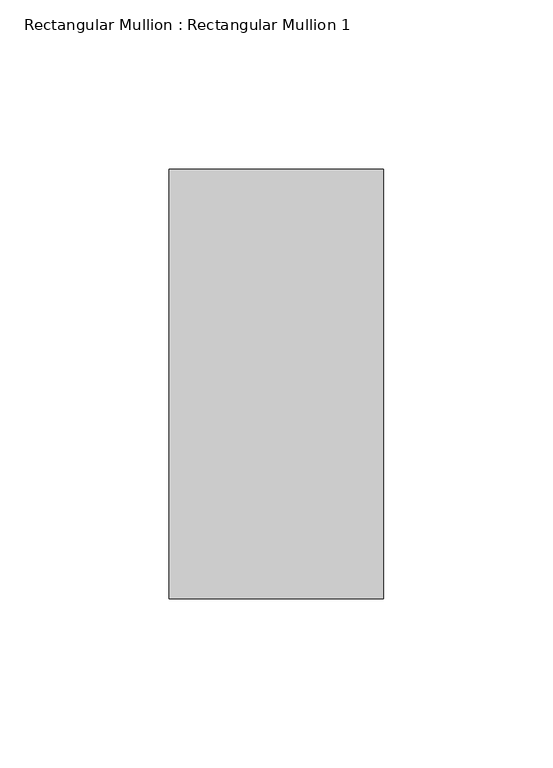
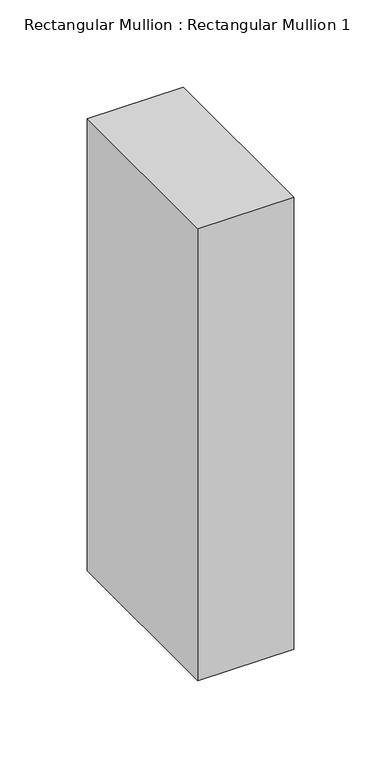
"""IFC4 building model written with IfcOpenShell, lengths in millimetres: member geometry, Rectangular Mullion : Rectangular Mullion 1."""

from ifc_helpers import new_model, si_unit, frame, origin, place, context, project, spatial, polyline, outline, extrude, source, transform, mapped, element, save


def rectangular_mullion_rectangular_mullion_1_71a928bc(model_context):
    return source(origin(), model_context, "Body", "SweptSolid", [
        extrude(outline(polyline([(0.0, 63.5), (0.0, -63.5), (-63.5, -63.5), (-63.5, 63.5), (0.0, 63.5)])), frame((0.0, 0.0, -316.5000002), z_axis=(0.0, 0.0, 1.0), x_axis=(1.0, 0.0, 0.0)), (0.0, 0.0, 1.0), 316.5000002),
    ])


if __name__ == "__main__":
    model = new_model("IFC4")
    model_context = context("Model", 3, world=origin())
    ifc_project = project(units=[si_unit("LENGTHUNIT", "METRE", prefix="MILLI")], contexts=[model_context])
    site = spatial("IfcSite", under=ifc_project)
    building = spatial("IfcBuilding", under=site)
    placement = place(None, origin())
    rectangular_mullion_rectangular_mullion_1_shape = rectangular_mullion_rectangular_mullion_1_71a928bc(model_context)
    element("IfcMember", 1, ObjectType="Rectangular Mullion : Rectangular Mullion 1", at=placement, inside=building, context=model_context, shape_type="MappedRepresentation", body=[
        mapped(rectangular_mullion_rectangular_mullion_1_shape, transform((0.0, 0.0, 0.0), x_axis=(1.0, 0.0, 0.0), y_axis=(0.0, 1.0, 0.0), z_axis=(0.0, 0.0, 1.0))),
    ])
    save(model, "model.ifc")
